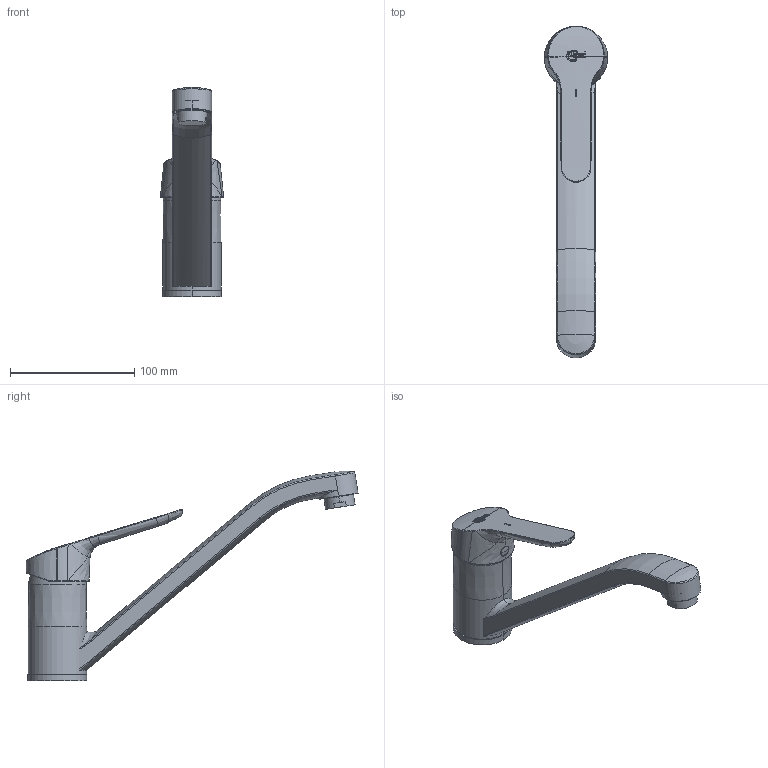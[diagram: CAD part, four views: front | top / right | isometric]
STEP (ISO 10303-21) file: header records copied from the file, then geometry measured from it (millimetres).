
FILE_DESCRIPTION((''),'2;1');
FILE_NAME('BC129_3DPL','2017-07-13T',('Niki'),(''),'CREO PARAMETRIC BY PTC INC, 2016130','CREO PARAMETRIC BY PTC INC, 2016130','');
FILE_SCHEMA(('CONFIG_CONTROL_DESIGN'));
Length unit declared in the file: millimetre
Products named in the file (1): BC129_3DPL
Bounding box: 50.88 x 267.48 x 169.01 mm (x, y, z)
Volume: 344270.1 mm3; surface area: 51285.5 mm2
Topology: 1 solids, 1 shells, 315 faces, 785 edges, 494 vertices
Faces by surface type: plane 111, bspline 91, cylinder 64, extrusion 27, cone 10, torus 9, sphere 3
Entity records: 14115 total; most frequent: CARTESIAN_POINT 7242, ORIENTED_EDGE 1560, DIRECTION 1188, EDGE_CURVE 780, VERTEX_POINT 494, AXIS2_PLACEMENT_3D 447, EDGE_LOOP 342, FACE_OUTER_BOUND 315
